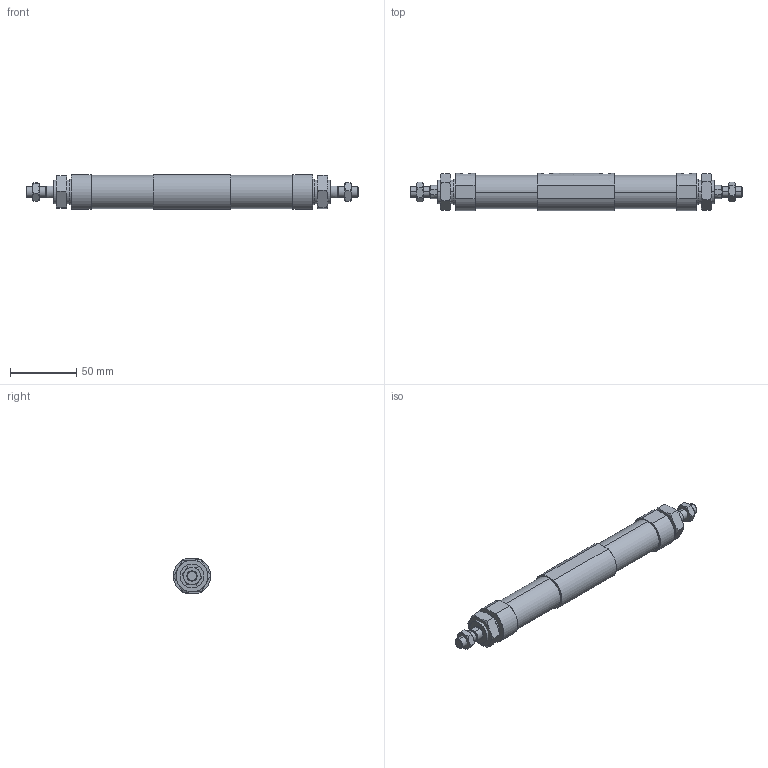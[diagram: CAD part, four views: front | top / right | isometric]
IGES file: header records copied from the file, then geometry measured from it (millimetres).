
Start section: SolidWorks IGES file using analytic representation for surfaces
Global section: file name: C:\Users\Toshiba\Desktop\JGD7-20-15-15-N.IGS; native system: SolidWorks 2014; preprocessor: SolidWorks 2014; author: Toshiba; date: 160419.152123; units: millimetre
Bounding box: 250 x 28 x 26 mm (x, y, z)
Surface area: 28951.5 mm2 (no closed solid volume)
Topology: 0 solids, 0 shells, 166 faces, 2996 edges, 2996 vertices
Faces by surface type: bspline 116, revolution 50
